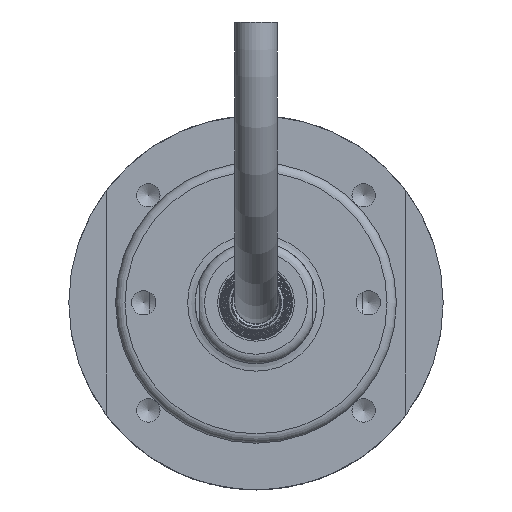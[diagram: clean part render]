
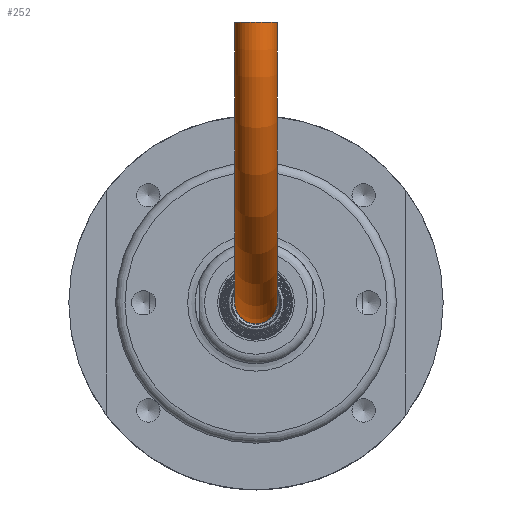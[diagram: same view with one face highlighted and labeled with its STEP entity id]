
A CAD part, front view. The second image highlights one B-rep face of the part: STEP entity #252.
In plain terms, the highlighted toroidal (fillet/blend) face has major radius 30 mm and minor radius 2.25 mm.
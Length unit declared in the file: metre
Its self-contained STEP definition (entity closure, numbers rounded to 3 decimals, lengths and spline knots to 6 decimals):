
#252 = ADVANCED_FACE( '', ( #517, #518 ), #519, .T. );
#517 = FACE_OUTER_BOUND( '', #2729, .T. );
#518 = FACE_OUTER_BOUND( '', #2730, .T. );
#519 = TOROIDAL_SURFACE( '', #2731, 0.03, 0.00225 );
#2729 = EDGE_LOOP( '', ( #11710 ) );
#2730 = EDGE_LOOP( '', ( #11711 ) );
#2731 = AXIS2_PLACEMENT_3D( '', #11712, #11713, #11714 );
#11710 = ORIENTED_EDGE( '', *, *, #12131, .T. );
#11711 = ORIENTED_EDGE( '', *, *, #12132, .F. );
#11712 = CARTESIAN_POINT( '', ( 0., -0.043, 0.03 ) );
#11713 = DIRECTION( '', ( -1., 0., 0. ) );
#11714 = DIRECTION( '', ( 0., 1., 0. ) );
#12131 = EDGE_CURVE( '', #12498, #12498, #12499, .T. );
#12132 = EDGE_CURVE( '', #12500, #12500, #12501, .T. );
#12498 = VERTEX_POINT( '', #14009 );
#12499 = CIRCLE( '', #14010, 0.00225 );
#12500 = VERTEX_POINT( '', #14011 );
#12501 = CIRCLE( '', #14012, 0.00225 );
#14009 = CARTESIAN_POINT( '', ( 0.00225, -0.043, 0. ) );
#14010 = AXIS2_PLACEMENT_3D( '', #17572, #17573, #17574 );
#14011 = CARTESIAN_POINT( '', ( 0., -0.07075, 0.03 ) );
#14012 = AXIS2_PLACEMENT_3D( '', #17575, #17576, #17577 );
#17572 = CARTESIAN_POINT( '', ( 0., -0.043, 0. ) );
#17573 = DIRECTION( '', ( 0., -1., 0. ) );
#17574 = DIRECTION( '', ( 1., 0., 0. ) );
#17575 = CARTESIAN_POINT( '', ( 0., -0.073, 0.03 ) );
#17576 = DIRECTION( '', ( 0., 0., 1. ) );
#17577 = DIRECTION( '', ( 0., 1., 0. ) );
